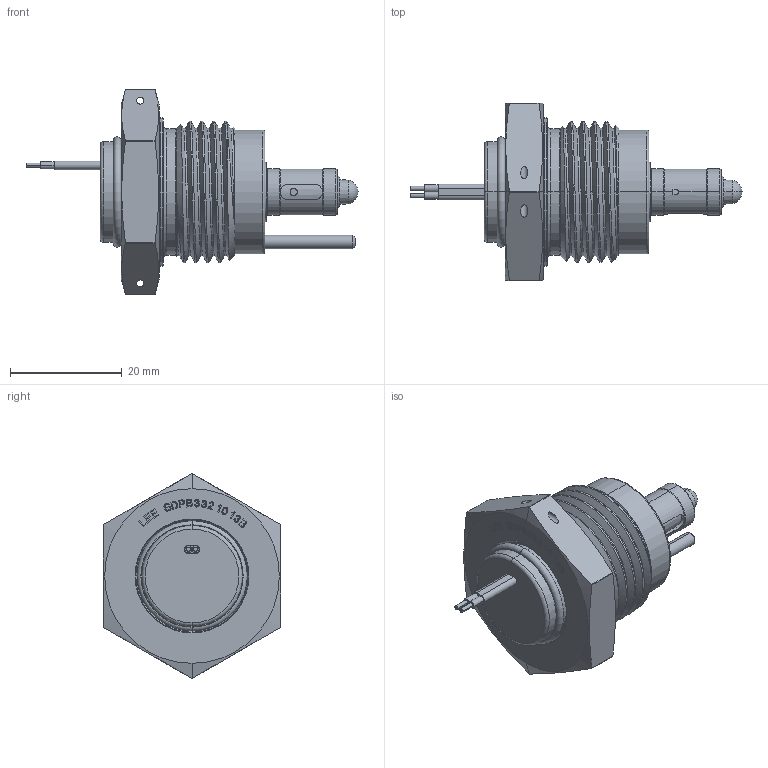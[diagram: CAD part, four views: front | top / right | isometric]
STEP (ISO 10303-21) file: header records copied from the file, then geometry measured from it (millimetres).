
FILE_DESCRIPTION(('Creo Elements/Direct Modeling STEP Export'),'2;1');
FILE_NAME('SDPB3321013B.stp','2021-04-08T11:15:16',(''),(''),'Creo Elements/Direct Modeling STEP processor for AP214 (Solid Model)','Creo Elements/Direct Modeling 18.1 03-Mar-2012 (C) Parametric Technology GmbH','');
FILE_SCHEMA(('AUTOMOTIVE_DESIGN { 1 0 10303 214 1 1 1 1 }'));
Length unit declared in the file: millimetre
Products named in the file (2): SDPB3321013B
Assembly tree (1 placements, depth 2):
  SDPB3321013B
    SDPB3321013B
Bounding box: 59.4 x 31.75 x 36.62 mm (x, y, z)
Volume: 15724.4 mm3; surface area: 5352 mm2
Topology: 1 solids, 1 shells, 779 faces, 2168 edges, 1428 vertices
Faces by surface type: plane 648, cylinder 71, cone 32, torus 20, revolution 6, bspline 2
Entity records: 30043 total; most frequent: CARTESIAN_POINT 9517, ORIENTED_EDGE 4334, DIRECTION 3579, EDGE_CURVE 2166, VECTOR 1886, LINE 1886, VERTEX_POINT 1428, AXIS2_PLACEMENT_3D 843
